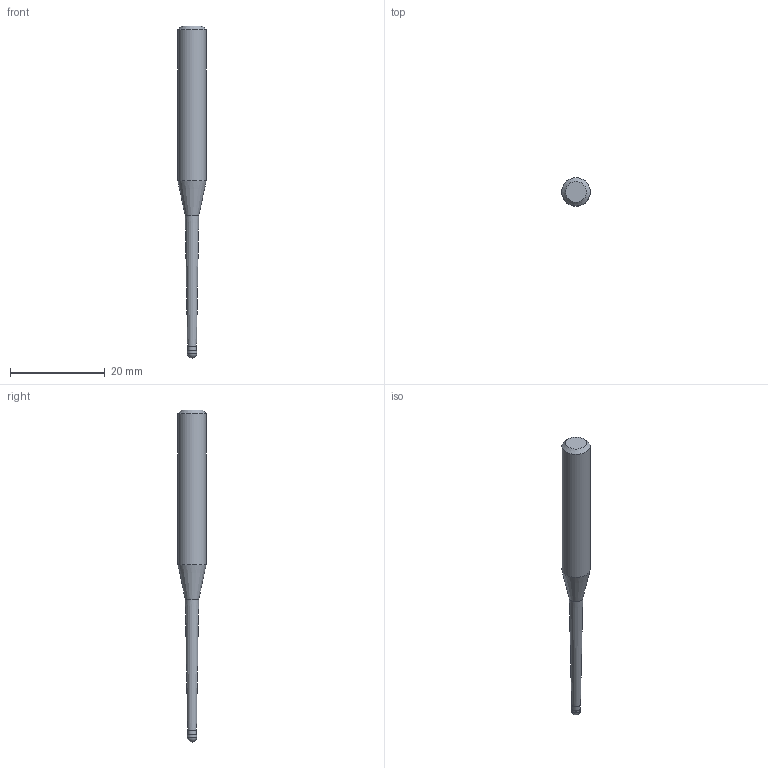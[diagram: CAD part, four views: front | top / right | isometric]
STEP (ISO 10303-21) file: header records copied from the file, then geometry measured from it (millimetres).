
FILE_DESCRIPTION((''),'2;1');
FILE_NAME('C:\Users\nsx150\AppData\Local\Temp\Mastercam 2021\E0ENTZRV18\TEMP.step','2021-09-02T09:56:53',(''),(''),'STEP Write','Mastercam 2021 ... CNC Software, Inc.','');
FILE_SCHEMA(('AUTOMOTIVE_DESIGN'));
Length unit declared in the file: millimetre
Products named in the file (1): None
Bounding box: 6 x 6 x 70 mm (x, y, z)
Volume: 1163.4 mm3; surface area: 963.6 mm2
Topology: 2 solids, 2 shells, 10 faces, 16 edges, 9 vertices
Faces by surface type: plane 3, cylinder 3, cone 3, sphere 1
Full cylindrical faces by diameter (mm): 1.875 x1, 2 x1, 6 x1
Entity records: 232 total; most frequent: DIRECTION 40, CARTESIAN_POINT 28, AXIS2_PLACEMENT_3D 20, ORIENTED_EDGE 16, EDGE_LOOP 16, STYLED_ITEM 13, ADVANCED_FACE 10, FACE_BOUND 9
